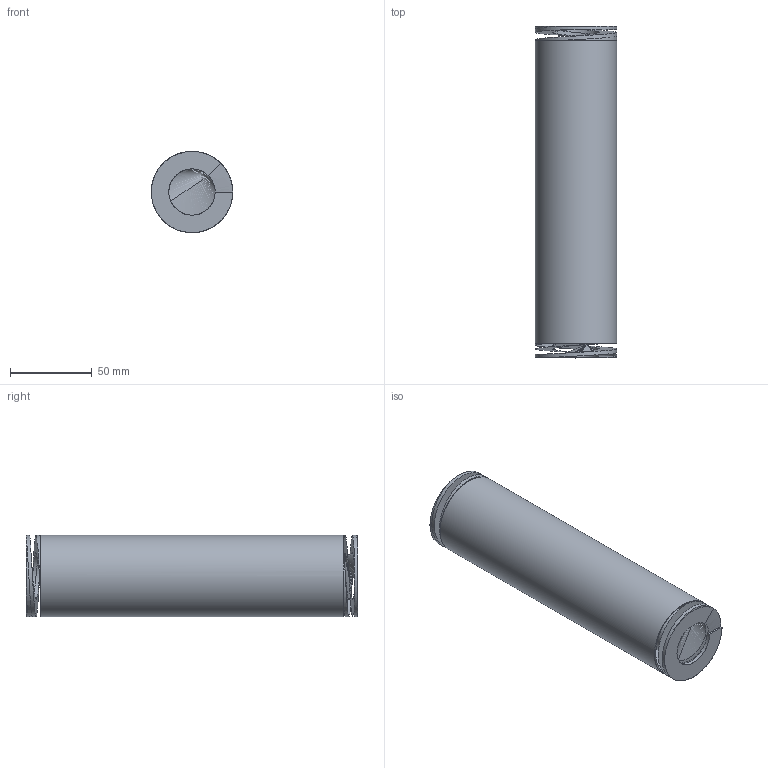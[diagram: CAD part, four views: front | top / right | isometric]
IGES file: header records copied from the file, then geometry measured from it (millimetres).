
Global section: file name: 1L51202; native system: Autodesk Inventor 2026; preprocessor: unknown; author: J. Iwanek; date: 20261007.111005; units: millimetre
Bounding box: 49.72 x 203 x 49.72 mm (x, y, z)
Volume: 257370.9 mm3; surface area: 57364.2 mm2
Topology: 1 solids, 1 shells, 22 faces, 66 edges, 42 vertices
Faces by surface type: bspline 22
